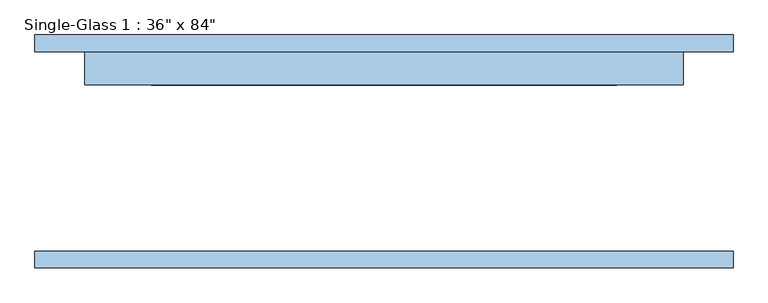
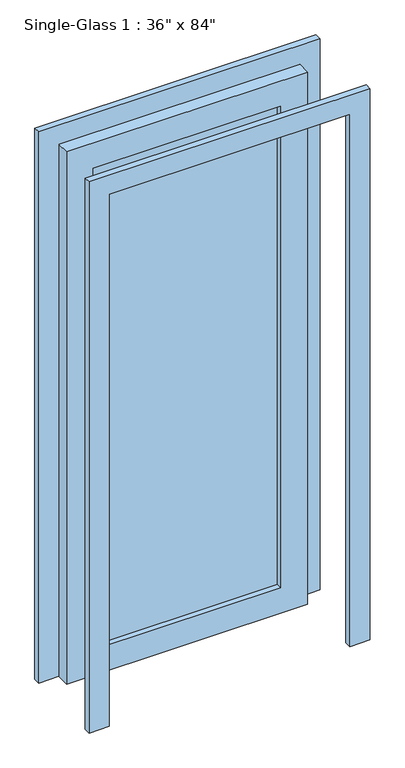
"""IFC4 building model written with IfcOpenShell, lengths in millimetres: window geometry."""

from ifc_helpers import new_model, si_unit, frame, origin, place, context, project, spatial, polyline, outline, extrude, source, transform, mapped, element, save


def window_29cceb54(model_context):
    return source(origin(), model_context, "Body", "SweptSolid", [
        extrude(outline(polyline([(2133.6, 457.2), (0.0, 457.2), (0.0, 533.4), (2209.8, 533.4), (2209.8, -533.4), (0.0, -533.4), (0.0, -457.2), (2133.6, -457.2), (2133.6, 457.2)])), frame((0.0, -177.8, 0.0), z_axis=(0.0, 1.0, 0.0), x_axis=(0.0, 0.0, 1.0)), (0.0, 0.0, 1.0), 25.4),
        extrude(outline(polyline([(2133.6, 457.2), (0.0, 457.2), (0.0, 533.4), (2209.8, 533.4), (2209.8, -533.4), (0.0, -533.4), (0.0, -457.2), (2133.6, -457.2), (2133.6, 457.2)])), frame((0.0, 152.4, 0.0), z_axis=(0.0, 1.0, 0.0), x_axis=(0.0, 0.0, 1.0)), (0.0, 0.0, 1.0), 25.4),
        extrude(outline(polyline([(355.6, 123.825), (-355.6, 123.825), (-355.6, 130.175), (355.6, 130.175), (355.6, 123.825)])), frame((0.0, 0.0, 101.6), z_axis=(0.0, 0.0, 1.0), x_axis=(1.0, 0.0, 0.0)), (0.0, 0.0, 1.0), 1930.4),
        extrude(outline(polyline([(2133.6, 457.2), (2133.6, -457.2), (0.0, -457.2), (0.0, 457.2), (2133.6, 457.2)]), holes=[polyline([(2032.0, -355.6), (2032.0, 355.6), (101.6, 355.6), (101.6, -355.6), (2032.0, -355.6)])]), frame((0.0, 101.6, 0.0), z_axis=(0.0, 1.0, 0.0), x_axis=(0.0, 0.0, 1.0)), (0.0, 0.0, 1.0), 50.8),
    ])


if __name__ == "__main__":
    model = new_model("IFC4")
    model_context = context("Model", 3, world=origin())
    ifc_project = project(units=[si_unit("LENGTHUNIT", "METRE", prefix="MILLI")], contexts=[model_context])
    site = spatial("IfcSite", under=ifc_project)
    building = spatial("IfcBuilding", under=site)
    placement = place(None, origin())
    window_shape = window_29cceb54(model_context)
    element("IfcWindow", 1, ObjectType="Single-Glass 1 : 36\" x 84\"", at=placement, inside=building, context=model_context, shape_type="MappedRepresentation", body=[
        mapped(window_shape, transform((0.0, 0.0, 0.0), x_axis=(1.0, 0.0, 0.0), y_axis=(0.0, 1.0, 0.0), z_axis=(0.0, 0.0, 1.0))),
    ])
    save(model, "model.ifc")
